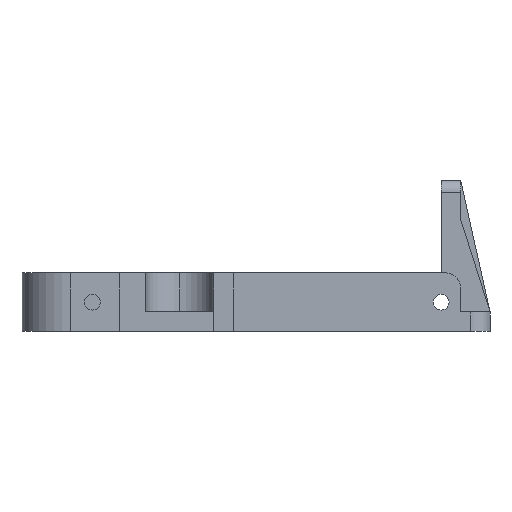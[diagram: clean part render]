
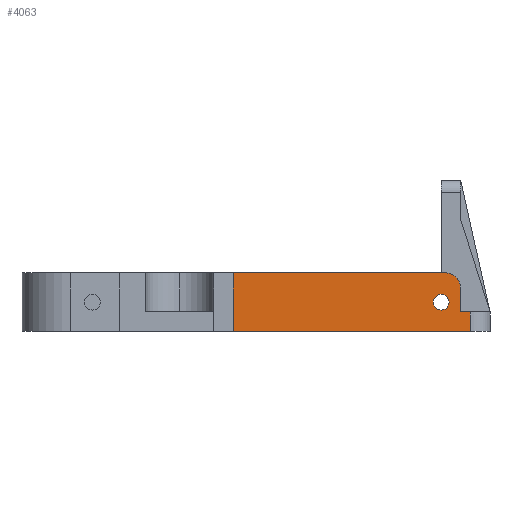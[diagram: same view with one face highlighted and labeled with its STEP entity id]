
A CAD part, left-side view. The second image highlights one B-rep face of the part: STEP entity #4063.
In plain terms, the highlighted planar face has unit normal (-1, 0, 0).
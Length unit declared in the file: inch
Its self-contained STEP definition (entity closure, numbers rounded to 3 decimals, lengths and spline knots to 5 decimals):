
#5 = DIRECTION ( 'NONE',  ( 0., 1., 0. ) ) ;
#10 = LINE ( 'NONE', #4038, #4663 ) ;
#16 = DIRECTION ( 'NONE',  ( 0., 0., 1. ) ) ;
#22 = VECTOR ( 'NONE', #2700, 39.37008 ) ;
#66 = EDGE_CURVE ( 'NONE', #1633, #511, #3757, .T. ) ;
#73 = CIRCLE ( 'NONE', #984, 0.10156 ) ;
#110 = CARTESIAN_POINT ( 'NONE',  ( -10.58016, 0.93103, 0.55 ) ) ;
#146 = ORIENTED_EDGE ( 'NONE', *, *, #66, .F. ) ;
#153 = CARTESIAN_POINT ( 'NONE',  ( -10.58016, 0.80603, 0.25 ) ) ;
#168 = EDGE_CURVE ( 'NONE', #511, #1664, #467, .T. ) ;
#230 = EDGE_CURVE ( 'NONE', #1633, #3392, #3079, .T. ) ;
#255 = DIRECTION ( 'NONE',  ( -1., 0., 0. ) ) ;
#275 = EDGE_CURVE ( 'NONE', #3436, #3255, #869, .T. ) ;
#332 = DIRECTION ( 'NONE',  ( -1., 0., 0. ) ) ;
#411 = CARTESIAN_POINT ( 'NONE',  ( -10.58016, 0.93103, 0. ) ) ;
#418 = ORIENTED_EDGE ( 'NONE', *, *, #168, .F. ) ;
#431 = FACE_BOUND ( 'NONE', #4683, .T. ) ;
#467 = LINE ( 'NONE', #1228, #1227 ) ;
#477 = DIRECTION ( 'NONE',  ( 0., 0., 1. ) ) ;
#511 = VERTEX_POINT ( 'NONE', #4527 ) ;
#620 = LINE ( 'NONE', #4647, #1478 ) ;
#699 = CARTESIAN_POINT ( 'NONE',  ( -10.58016, 1.13103, 0.55 ) ) ;
#701 = EDGE_CURVE ( 'NONE', #3930, #4555, #10, .T. ) ;
#798 = CARTESIAN_POINT ( 'NONE',  ( -10.58016, 1.18103, 0.27344 ) ) ;
#864 = CARTESIAN_POINT ( 'NONE',  ( -10.58016, 3.83603, 0.75 ) ) ;
#869 = CIRCLE ( 'NONE', #1665, 0.10156 ) ;
#984 = AXIS2_PLACEMENT_3D ( 'NONE', #2482, #255, #2848 ) ;
#1227 = VECTOR ( 'NONE', #477, 39.37008 ) ;
#1228 = CARTESIAN_POINT ( 'NONE',  ( -10.58016, 3.83603, -0.55902 ) ) ;
#1275 = CARTESIAN_POINT ( 'NONE',  ( -10.58016, 1.18103, 0.375 ) ) ;
#1478 = VECTOR ( 'NONE', #3559, 39.37008 ) ;
#1500 = EDGE_CURVE ( 'NONE', #3392, #3930, #620, .T. ) ;
#1633 = VERTEX_POINT ( 'NONE', #4222 ) ;
#1648 = DIRECTION ( 'NONE',  ( 0., 0., 1. ) ) ;
#1664 = VERTEX_POINT ( 'NONE', #864 ) ;
#1665 = AXIS2_PLACEMENT_3D ( 'NONE', #1275, #3852, #1648 ) ;
#1682 = VECTOR ( 'NONE', #5, 39.37008 ) ;
#1721 = CARTESIAN_POINT ( 'NONE',  ( -10.58016, 0.93103, 0.25 ) ) ;
#1972 = VECTOR ( 'NONE', #3455, 39.37008 ) ;
#2186 = EDGE_CURVE ( 'NONE', #4555, #3522, #3661, .T. ) ;
#2357 = EDGE_CURVE ( 'NONE', #3522, #1664, #2980, .T. ) ;
#2417 = CARTESIAN_POINT ( 'NONE',  ( -10.58016, 0.80603, 0.25 ) ) ;
#2482 = CARTESIAN_POINT ( 'NONE',  ( -10.58016, 1.18103, 0.375 ) ) ;
#2551 = DIRECTION ( 'NONE',  ( 0., 0., -1. ) ) ;
#2560 = DIRECTION ( 'NONE',  ( 0., 0., -1. ) ) ;
#2601 = EDGE_CURVE ( 'NONE', #3255, #3436, #73, .T. ) ;
#2680 = ORIENTED_EDGE ( 'NONE', *, *, #275, .F. ) ;
#2700 = DIRECTION ( 'NONE',  ( 0., 1., 0. ) ) ;
#2748 = ORIENTED_EDGE ( 'NONE', *, *, #2186, .T. ) ;
#2781 = ORIENTED_EDGE ( 'NONE', *, *, #2601, .F. ) ;
#2848 = DIRECTION ( 'NONE',  ( 0., 0., 1. ) ) ;
#2978 = ORIENTED_EDGE ( 'NONE', *, *, #701, .T. ) ;
#2980 = LINE ( 'NONE', #3411, #22 ) ;
#3079 = LINE ( 'NONE', #153, #1972 ) ;
#3179 = CARTESIAN_POINT ( 'NONE',  ( -10.58016, 1.18103, 0.47656 ) ) ;
#3248 = ORIENTED_EDGE ( 'NONE', *, *, #2357, .T. ) ;
#3255 = VERTEX_POINT ( 'NONE', #798 ) ;
#3392 = VERTEX_POINT ( 'NONE', #2417 ) ;
#3411 = CARTESIAN_POINT ( 'NONE',  ( -10.58016, 0.93103, 0.75 ) ) ;
#3436 = VERTEX_POINT ( 'NONE', #3179 ) ;
#3455 = DIRECTION ( 'NONE',  ( 0., 0., 1. ) ) ;
#3522 = VERTEX_POINT ( 'NONE', #3938 ) ;
#3552 = ORIENTED_EDGE ( 'NONE', *, *, #230, .T. ) ;
#3559 = DIRECTION ( 'NONE',  ( 0., 1., 0. ) ) ;
#3652 = PLANE ( 'NONE',  #4598 ) ;
#3661 = CIRCLE ( 'NONE', #3874, 0.2 ) ;
#3757 = LINE ( 'NONE', #411, #1682 ) ;
#3852 = DIRECTION ( 'NONE',  ( -1., 0., 0. ) ) ;
#3874 = AXIS2_PLACEMENT_3D ( 'NONE', #699, #332, #2551 ) ;
#3893 = FACE_OUTER_BOUND ( 'NONE', #4442, .T. ) ;
#3930 = VERTEX_POINT ( 'NONE', #1721 ) ;
#3932 = ORIENTED_EDGE ( 'NONE', *, *, #1500, .T. ) ;
#3938 = CARTESIAN_POINT ( 'NONE',  ( -10.58016, 1.13103, 0.75 ) ) ;
#4007 = CARTESIAN_POINT ( 'NONE',  ( -10.58016, 0.93103, 0. ) ) ;
#4038 = CARTESIAN_POINT ( 'NONE',  ( -10.58016, 0.93103, 0. ) ) ;
#4063 = ADVANCED_FACE ( 'NONE', ( #431, #3893 ), #3652, .F. ) ;
#4222 = CARTESIAN_POINT ( 'NONE',  ( -10.58016, 0.80603, 0. ) ) ;
#4442 = EDGE_LOOP ( 'NONE', ( #2978, #2748, #3248, #418, #146, #3552, #3932 ) ) ;
#4527 = CARTESIAN_POINT ( 'NONE',  ( -10.58016, 3.83603, 0. ) ) ;
#4555 = VERTEX_POINT ( 'NONE', #110 ) ;
#4598 = AXIS2_PLACEMENT_3D ( 'NONE', #4007, #4743, #2560 ) ;
#4647 = CARTESIAN_POINT ( 'NONE',  ( -10.58016, 0.93103, 0.25 ) ) ;
#4663 = VECTOR ( 'NONE', #16, 39.37008 ) ;
#4683 = EDGE_LOOP ( 'NONE', ( #2680, #2781 ) ) ;
#4743 = DIRECTION ( 'NONE',  ( 1., 0., 0. ) ) ;
